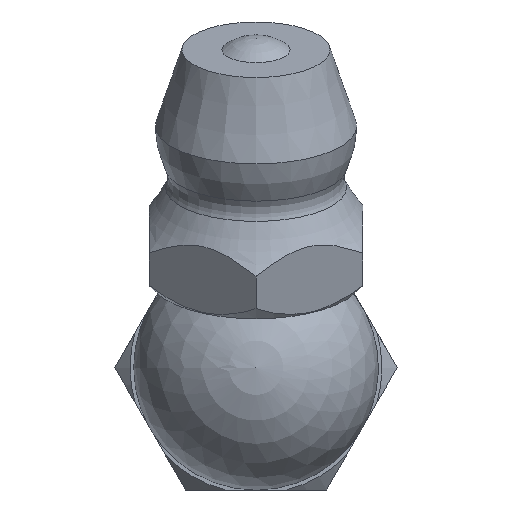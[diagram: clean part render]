
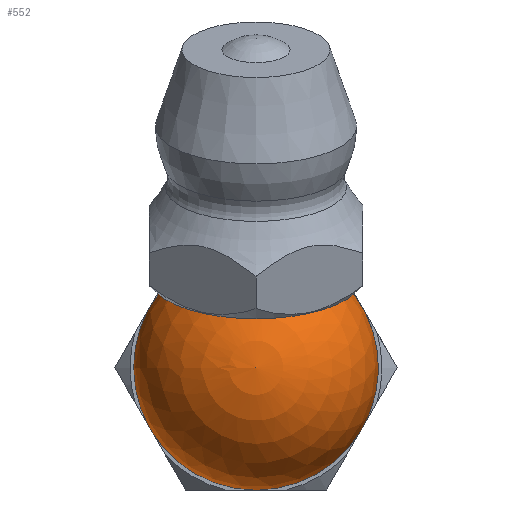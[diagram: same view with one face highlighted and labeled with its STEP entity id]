
A CAD part, left-side view. The second image highlights one B-rep face of the part: STEP entity #552.
In plain terms, the highlighted spherical face has radius 4 mm.
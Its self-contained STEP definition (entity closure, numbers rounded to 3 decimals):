
#107=SPHERICAL_SURFACE('',#604,4.);
#141=ORIENTED_EDGE('',*,*,#297,.F.);
#142=ORIENTED_EDGE('',*,*,#298,.T.);
#297=EDGE_CURVE('',#375,#376,#422,.T.);
#298=EDGE_CURVE('',#375,#376,#423,.F.);
#375=VERTEX_POINT('',#866);
#376=VERTEX_POINT('',#867);
#422=CIRCLE('',#605,4.);
#423=CIRCLE('',#606,2.572);
#446=EDGE_LOOP('',(#141,#142));
#495=FACE_BOUND('',#446,.T.);
#552=ADVANCED_FACE('',(#495),#107,.T.);
#604=AXIS2_PLACEMENT_3D('',#864,#670,#671);
#605=AXIS2_PLACEMENT_3D('',#865,#672,#673);
#606=AXIS2_PLACEMENT_3D('',#868,#674,#675);
#670=DIRECTION('',(1.,0.,0.));
#671=DIRECTION('',(0.,1.,0.));
#672=DIRECTION('',(1.,0.,0.));
#673=DIRECTION('',(0.,0.,-1.));
#674=DIRECTION('',(-0.375,0.,0.927));
#675=DIRECTION('',(0.927,0.,0.375));
#864=CARTESIAN_POINT('',(-5.3,0.,0.));
#865=CARTESIAN_POINT('',(-5.3,0.,0.));
#866=CARTESIAN_POINT('',(-5.3,-2.254,3.304));
#867=CARTESIAN_POINT('',(-5.3,2.254,3.304));
#868=CARTESIAN_POINT('',(-6.448,0.,2.841));
